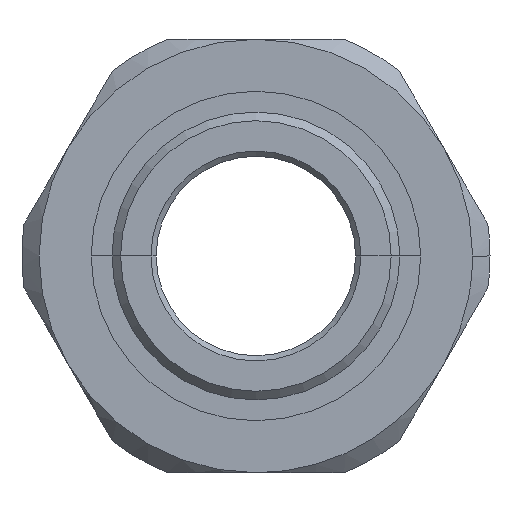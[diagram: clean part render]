
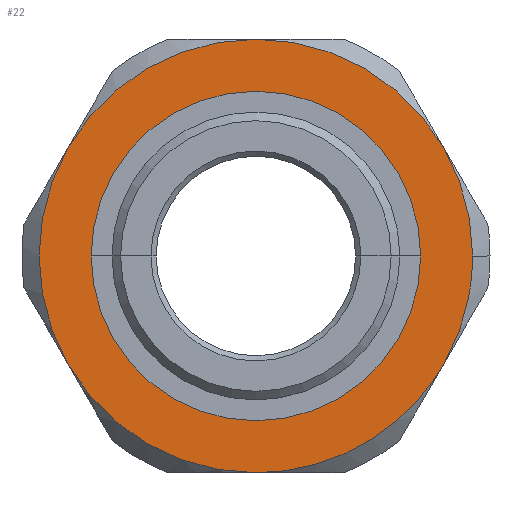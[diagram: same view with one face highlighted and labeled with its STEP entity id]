
A CAD part, left-side view. The second image highlights one B-rep face of the part: STEP entity #22.
In plain terms, the highlighted planar face has unit normal (-1, 0, 0).
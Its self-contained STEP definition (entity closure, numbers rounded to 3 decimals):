
#14=FACE_BOUND('',#151,.T.);
#22=ADVANCED_FACE('',(#86,#14),#912,.T.);
#86=FACE_OUTER_BOUND('',#150,.T.);
#150=EDGE_LOOP('',(#234,#235,#236,#237,#238,#239,#240));
#151=EDGE_LOOP('',(#241,#242));
#234=ORIENTED_EDGE('',*,*,#525,.T.);
#235=ORIENTED_EDGE('',*,*,#526,.T.);
#236=ORIENTED_EDGE('',*,*,#527,.T.);
#237=ORIENTED_EDGE('',*,*,#528,.T.);
#238=ORIENTED_EDGE('',*,*,#529,.T.);
#239=ORIENTED_EDGE('',*,*,#530,.T.);
#240=ORIENTED_EDGE('',*,*,#531,.T.);
#241=ORIENTED_EDGE('',*,*,#589,.T.);
#242=ORIENTED_EDGE('',*,*,#624,.T.);
#525=EDGE_CURVE('',#861,#860,#694,.T.);
#526=EDGE_CURVE('',#860,#843,#695,.T.);
#527=EDGE_CURVE('',#843,#847,#696,.T.);
#528=EDGE_CURVE('',#847,#850,#697,.T.);
#529=EDGE_CURVE('',#850,#853,#698,.T.);
#530=EDGE_CURVE('',#853,#856,#815,.T.);
#531=EDGE_CURVE('',#856,#861,#816,.T.);
#589=EDGE_CURVE('',#893,#908,#721,.T.);
#624=EDGE_CURVE('',#908,#893,#740,.T.);
#694=TRIMMED_CURVE($,#758,(#2165),(#2166),.T.,.CARTESIAN.);
#695=TRIMMED_CURVE($,#759,(#2168),(#2169),.T.,.CARTESIAN.);
#696=TRIMMED_CURVE($,#760,(#2171),(#2172),.T.,.CARTESIAN.);
#697=TRIMMED_CURVE($,#761,(#2174),(#2175),.T.,.CARTESIAN.);
#698=TRIMMED_CURVE($,#762,(#2177),(#2178),.T.,.CARTESIAN.);
#721=TRIMMED_CURVE($,#785,(#2383),(#2384),.T.,.CARTESIAN.);
#740=TRIMMED_CURVE($,#804,(#2487),(#2488),.T.,.CARTESIAN.);
#758=CIRCLE('',#1113,12.5);
#759=CIRCLE('',#1114,12.5);
#760=CIRCLE('',#1115,12.5);
#761=CIRCLE('',#1116,12.5);
#762=CIRCLE('',#1117,12.5);
#785=CIRCLE('',#1140,9.5);
#804=CIRCLE('',#1159,9.5);
#815=(
BOUNDED_CURVE()
B_SPLINE_CURVE(2,(#2179,#2180,#2181),.UNSPECIFIED.,.F.,.F.)
B_SPLINE_CURVE_WITH_KNOTS((3,3),(69.27,84.663),
 .UNSPECIFIED.)
CURVE()
GEOMETRIC_REPRESENTATION_ITEM()
RATIONAL_B_SPLINE_CURVE((1.,0.866,1.))
REPRESENTATION_ITEM('')
);
#816=(
BOUNDED_CURVE()
B_SPLINE_CURVE(2,(#2182,#2183,#2184),.UNSPECIFIED.,.F.,.F.)
B_SPLINE_CURVE_WITH_KNOTS((3,3),(84.663,92.36),
 .UNSPECIFIED.)
CURVE()
GEOMETRIC_REPRESENTATION_ITEM()
RATIONAL_B_SPLINE_CURVE((1.,0.966,1.))
REPRESENTATION_ITEM('')
);
#843=VERTEX_POINT('',#1935);
#847=VERTEX_POINT('',#1939);
#850=VERTEX_POINT('',#1942);
#853=VERTEX_POINT('',#1945);
#856=VERTEX_POINT('',#1948);
#860=VERTEX_POINT('',#1952);
#861=VERTEX_POINT('',#1953);
#893=VERTEX_POINT('',#1985);
#908=VERTEX_POINT('',#2000);
#912=PLANE('',#1065);
#1065=AXIS2_PLACEMENT_3D('',#1451,#1166,$);
#1113=AXIS2_PLACEMENT_3D($,#2164,#1229,#1230);
#1114=AXIS2_PLACEMENT_3D($,#2167,#1231,#1232);
#1115=AXIS2_PLACEMENT_3D($,#2170,#1233,#1234);
#1116=AXIS2_PLACEMENT_3D($,#2173,#1235,#1236);
#1117=AXIS2_PLACEMENT_3D($,#2176,#1237,#1238);
#1140=AXIS2_PLACEMENT_3D($,#2382,#1283,#1284);
#1159=AXIS2_PLACEMENT_3D($,#2486,#1321,#1322);
#1166=DIRECTION('',(-1.,0.,0.));
#1229=DIRECTION('',(-1.,0.,0.));
#1230=DIRECTION('',(0.,-1.,0.));
#1231=DIRECTION('',(-1.,0.,0.));
#1232=DIRECTION('',(0.,-0.866,0.5));
#1233=DIRECTION('',(-1.,0.,0.));
#1234=DIRECTION('',(0.,0.,1.));
#1235=DIRECTION('',(-1.,0.,0.));
#1236=DIRECTION('',(0.,0.866,0.5));
#1237=DIRECTION('',(-1.,0.,0.));
#1238=DIRECTION('',(0.,0.866,-0.5));
#1283=DIRECTION('',(1.,0.,0.));
#1284=DIRECTION('',(0.,-1.,0.));
#1321=DIRECTION('',(1.,0.,0.));
#1322=DIRECTION('',(0.,1.,0.));
#1451=CARTESIAN_POINT('',(2972.117,1709.879,12.75));
#1935=CARTESIAN_POINT('',(2972.117,1723.778,12.5));
#1939=CARTESIAN_POINT('',(2972.117,1734.603,6.25));
#1942=CARTESIAN_POINT('',(2972.117,1734.603,-6.25));
#1945=CARTESIAN_POINT('',(2972.117,1723.778,-12.5));
#1948=CARTESIAN_POINT('',(2972.117,1712.952,-6.25));
#1952=CARTESIAN_POINT('',(2972.117,1712.952,6.25));
#1953=CARTESIAN_POINT('',(2972.117,1711.278,0.));
#1985=CARTESIAN_POINT('',(2972.117,1714.278,0.));
#2000=CARTESIAN_POINT('',(2972.117,1733.278,0.));
#2164=CARTESIAN_POINT('',(2972.117,1723.778,0.));
#2165=CARTESIAN_POINT('',(2972.117,1711.278,0.));
#2166=CARTESIAN_POINT('',(2972.117,1712.952,6.25));
#2167=CARTESIAN_POINT('',(2972.117,1723.778,0.));
#2168=CARTESIAN_POINT('',(2972.117,1712.952,6.25));
#2169=CARTESIAN_POINT('',(2972.117,1723.778,12.5));
#2170=CARTESIAN_POINT('',(2972.117,1723.778,0.));
#2171=CARTESIAN_POINT('',(2972.117,1723.778,12.5));
#2172=CARTESIAN_POINT('',(2972.117,1734.603,6.25));
#2173=CARTESIAN_POINT('',(2972.117,1723.778,0.));
#2174=CARTESIAN_POINT('',(2972.117,1734.603,6.25));
#2175=CARTESIAN_POINT('',(2972.117,1734.603,-6.25));
#2176=CARTESIAN_POINT('',(2972.117,1723.778,0.));
#2177=CARTESIAN_POINT('',(2972.117,1734.603,-6.25));
#2178=CARTESIAN_POINT('',(2972.117,1723.778,-12.5));
#2179=CARTESIAN_POINT('',(2972.117,1723.778,-12.5));
#2180=CARTESIAN_POINT('',(2972.117,1716.561,-12.5));
#2181=CARTESIAN_POINT('',(2972.117,1712.952,-6.25));
#2182=CARTESIAN_POINT('',(2972.117,1712.952,-6.25));
#2183=CARTESIAN_POINT('',(2972.117,1711.278,-3.349));
#2184=CARTESIAN_POINT('',(2972.117,1711.278,0.));
#2382=CARTESIAN_POINT('',(2972.117,1723.778,0.));
#2383=CARTESIAN_POINT('',(2972.117,1714.278,0.));
#2384=CARTESIAN_POINT('',(2972.117,1733.278,0.));
#2486=CARTESIAN_POINT('',(2972.117,1723.778,0.));
#2487=CARTESIAN_POINT('',(2972.117,1733.278,0.));
#2488=CARTESIAN_POINT('',(2972.117,1714.278,0.));
